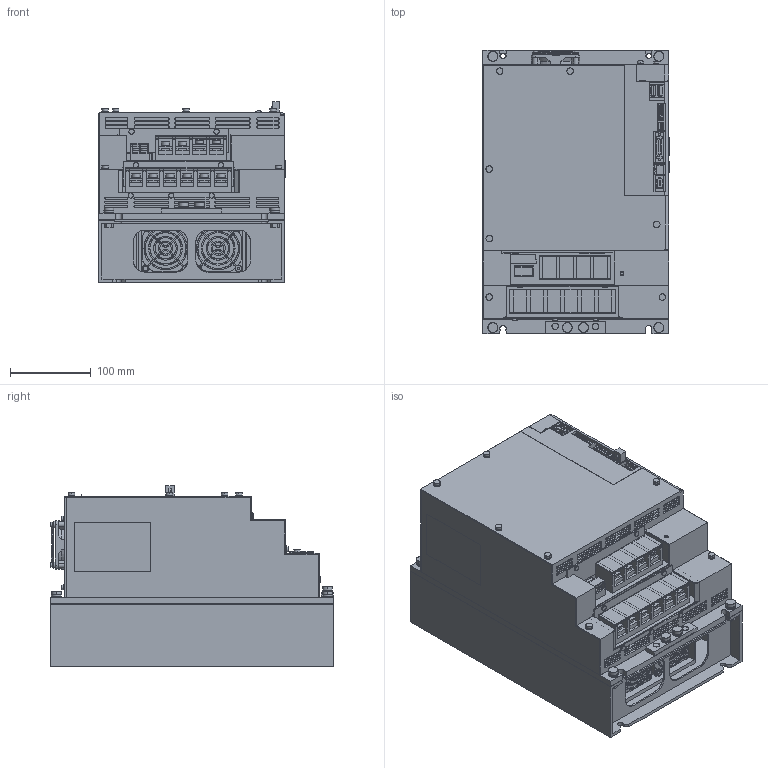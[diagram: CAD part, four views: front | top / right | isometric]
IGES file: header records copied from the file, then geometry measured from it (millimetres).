
Start section: SolidWorks IGES file using analytic representation for surfaces
Global section: file name: C:\YASKAWA\sgdv_210d1_a.IGS; native system: SolidWorks 2006 by SolidWorks Corporation; preprocessor: SolidWorks 2006 by SolidWorks Corporation; author: yamanouchi; date: 090513.220409; units: millimetre
Bounding box: 230.6 x 350 x 223 mm (x, y, z)
Surface area: 642866.7 mm2 (no closed solid volume)
Topology: 0 solids, 0 shells, 2696 faces, 29577 edges, 29577 vertices
Faces by surface type: bspline 2148, revolution 548
